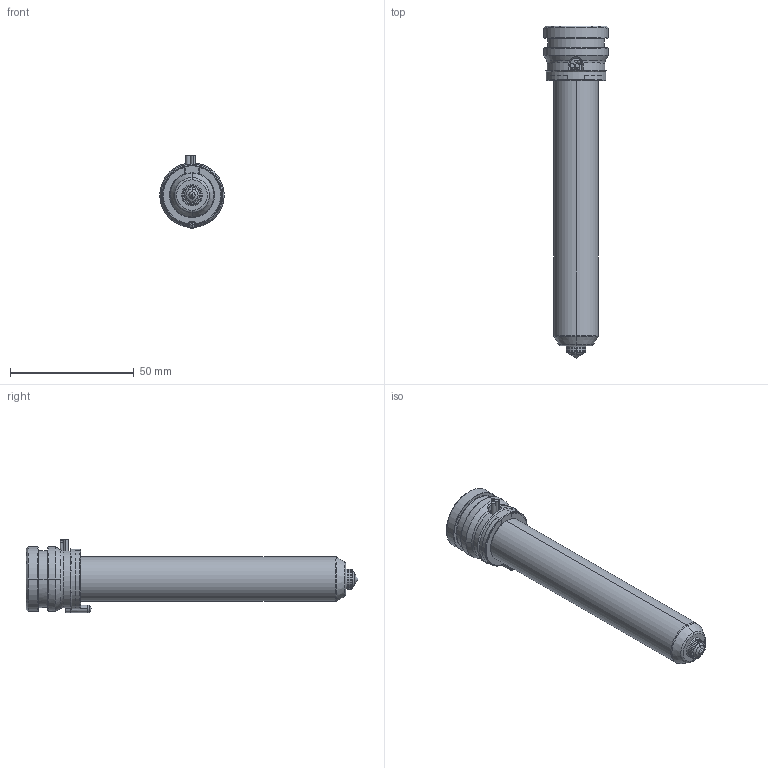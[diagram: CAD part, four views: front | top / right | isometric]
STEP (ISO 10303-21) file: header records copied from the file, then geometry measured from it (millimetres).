
FILE_DESCRIPTION((''),'2;1');
FILE_NAME('TH18116-A-1-PK-JG','2023-12-14T',('umhib'),('Thermoplay S.p.A.'),'PRO/ENGINEER BY PARAMETRIC TECHNOLOGY CORPORATION, 2017170','PRO/ENGINEER BY PARAMETRIC TECHNOLOGY CORPORATION, 2017170','');
FILE_SCHEMA(('CONFIG_CONTROL_DESIGN'));
Length unit declared in the file: millimetre
Products named in the file (1): TH18116-A-1-PK-JG
Bounding box: 26 x 134 x 29.5 mm (x, y, z)
Volume: 27698.9 mm3; surface area: 20124.1 mm2
Topology: 1 solids, 2 shells, 396 faces, 1032 edges, 641 vertices
Faces by surface type: cylinder 151, plane 85, cone 66, torus 56, bspline 24, sphere 12, extrusion 2
Entity records: 18004 total; most frequent: CARTESIAN_POINT 6095, ORIENTED_EDGE 2040, DIRECTION 2021, EDGE_CURVE 1022, AXIS2_PLACEMENT_3D 811, VERTEX_POINT 641, CIRCLE 440, EDGE_LOOP 416
